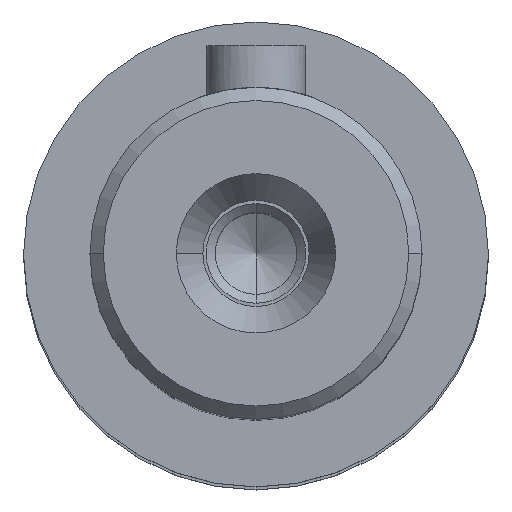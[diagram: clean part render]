
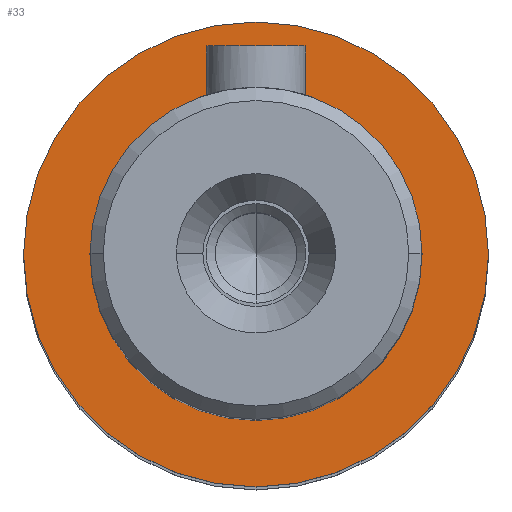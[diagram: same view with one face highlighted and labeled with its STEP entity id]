
A CAD part, top view. The second image highlights one B-rep face of the part: STEP entity #33.
In plain terms, the highlighted planar face has unit normal (0, 0, 1) as drawn and (1, 0, 0) by its records, which use the part's own axes.
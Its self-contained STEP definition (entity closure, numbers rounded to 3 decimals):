
#21=FACE_BOUND('',#105,.T.);
#33=ADVANCED_FACE('',(#67,#21),#513,.T.);
#67=FACE_OUTER_BOUND('',#104,.T.);
#104=EDGE_LOOP('',(#164,#165));
#105=EDGE_LOOP('',(#166,#167));
#164=ORIENTED_EDGE('',*,*,#322,.F.);
#165=ORIENTED_EDGE('',*,*,#279,.F.);
#166=ORIENTED_EDGE('',*,*,#325,.F.);
#167=ORIENTED_EDGE('',*,*,#286,.F.);
#279=EDGE_CURVE('',#449,#477,#376,.T.);
#286=EDGE_CURVE('',#450,#478,#378,.T.);
#322=EDGE_CURVE('',#477,#449,#397,.T.);
#325=EDGE_CURVE('',#478,#450,#399,.T.);
#376=TRIMMED_CURVE($,#412,(#1042),(#1043),.T.,.CARTESIAN.);
#378=TRIMMED_CURVE($,#414,(#1068),(#1069),.T.,.CARTESIAN.);
#397=TRIMMED_CURVE($,#433,(#1159),(#1160),.T.,.CARTESIAN.);
#399=TRIMMED_CURVE($,#435,(#1167),(#1168),.T.,.CARTESIAN.);
#412=CIRCLE('',#728,14.);
#414=CIRCLE('',#730,10.);
#433=CIRCLE('',#749,14.);
#435=CIRCLE('',#751,10.);
#449=VERTEX_POINT('',#981);
#450=VERTEX_POINT('',#982);
#477=VERTEX_POINT('',#1009);
#478=VERTEX_POINT('',#1010);
#513=PLANE('',#704);
#704=AXIS2_PLACEMENT_3D('',#876,#772,$);
#728=AXIS2_PLACEMENT_3D($,#1041,#802,#803);
#730=AXIS2_PLACEMENT_3D($,#1067,#806,#807);
#749=AXIS2_PLACEMENT_3D($,#1158,#844,#845);
#751=AXIS2_PLACEMENT_3D($,#1166,#848,#849);
#772=DIRECTION('',(1.,0.,0.));
#802=DIRECTION('',(-1.,0.,0.));
#803=DIRECTION('',(0.,0.,-1.));
#806=DIRECTION('',(1.,0.,0.));
#807=DIRECTION('',(0.,0.,-1.));
#844=DIRECTION('',(-1.,0.,0.));
#845=DIRECTION('',(0.,0.,1.));
#848=DIRECTION('',(1.,0.,0.));
#849=DIRECTION('',(0.,0.,1.));
#876=CARTESIAN_POINT('',(53.5,-16.86,-16.86));
#981=CARTESIAN_POINT('',(53.5,0.,-14.));
#982=CARTESIAN_POINT('',(53.5,0.,-10.));
#1009=CARTESIAN_POINT('',(53.5,0.,14.));
#1010=CARTESIAN_POINT('',(53.5,0.,10.));
#1041=CARTESIAN_POINT('',(53.5,0.,0.));
#1042=CARTESIAN_POINT('',(53.5,0.,-14.));
#1043=CARTESIAN_POINT('',(53.5,0.,14.));
#1067=CARTESIAN_POINT('',(53.5,0.,0.));
#1068=CARTESIAN_POINT('',(53.5,0.,-10.));
#1069=CARTESIAN_POINT('',(53.5,0.,10.));
#1158=CARTESIAN_POINT('',(53.5,0.,0.));
#1159=CARTESIAN_POINT('',(53.5,0.,14.));
#1160=CARTESIAN_POINT('',(53.5,0.,-14.));
#1166=CARTESIAN_POINT('',(53.5,0.,0.));
#1167=CARTESIAN_POINT('',(53.5,0.,10.));
#1168=CARTESIAN_POINT('',(53.5,0.,-10.));
